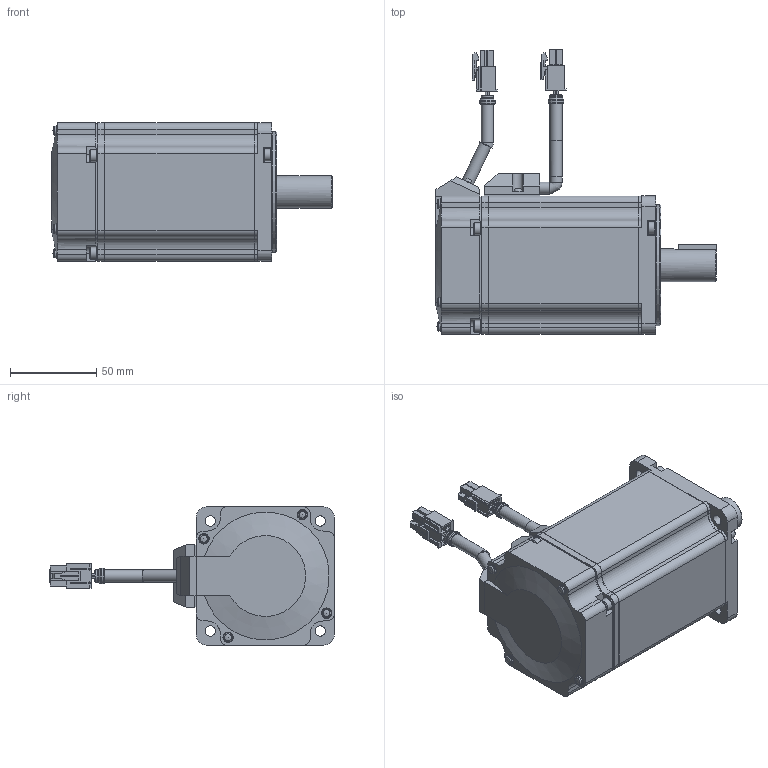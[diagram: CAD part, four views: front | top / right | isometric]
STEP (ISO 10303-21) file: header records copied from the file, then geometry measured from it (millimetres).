
FILE_DESCRIPTION( ( 'STEP AP0' ), '1' );
FILE_NAME( '//expscmdclustefs.cadenas.external/client_exchange/iodir/jobs/output/wkb64910451_no0/STEP/MHMD082G1UA_2_03.stp', ' ', ( ' ' ), ( ' ' ), 'PSStep 15.0.47', 'PARTsolutions', ' ' );
FILE_SCHEMA( ( 'CONFIG_CONTROL_DESIGN' ) );
Length unit declared in the file: millimetre
Products named in the file (8): MHMD082G1UA; HI_0.75 kWith key and end of tapNo body; HI_Motoplug--08A; HI_Cabel Motoplug--08P; HI_Motor Connector; HI_Encoder--08P; HI_Cabel brake--08-P-6; HI_2500 p/r Connector
Assembly tree (7 placements, depth 2):
  MHMD082G1UA
    HI_0.75 kWith key and end of tapNo body
    HI_Motoplug--08A
    HI_Cabel Motoplug--08P
    HI_Motor Connector
    HI_Encoder--08P
    HI_Cabel brake--08-P-6
    HI_2500 p/r Connector
Bounding box: 162.2 x 164.8 x 80 mm (x, y, z)
Volume: 759358.6 mm3; surface area: 70130.5 mm2
Topology: 7 solids, 7 shells, 811 faces, 2077 edges, 1357 vertices
Faces by surface type: plane 572, cylinder 190, cone 27, torus 14, sphere 4, bspline 4
Full cylindrical faces by diameter (mm): 1 x8, 1.82 x4, 2.6 x10, 4.134 x1, 4.5 x4, 6 x8, 7 x15, 8 x5, 9 x2, 19 x1, 29.4 x1, 31.14 x1, 70 x1
Entity records: 24103 total; most frequent: CARTESIAN_POINT 4336, DIRECTION 4000, ORIENTED_EDGE 3894, EDGE_CURVE 1947, LINE 1490, VECTOR 1490, VERTEX_POINT 1339, AXIS2_PLACEMENT_3D 1255
